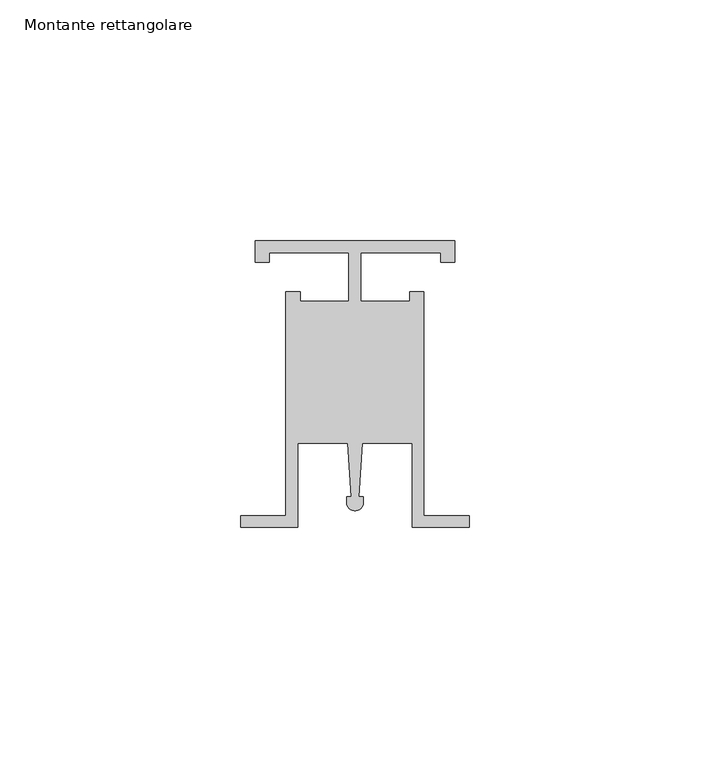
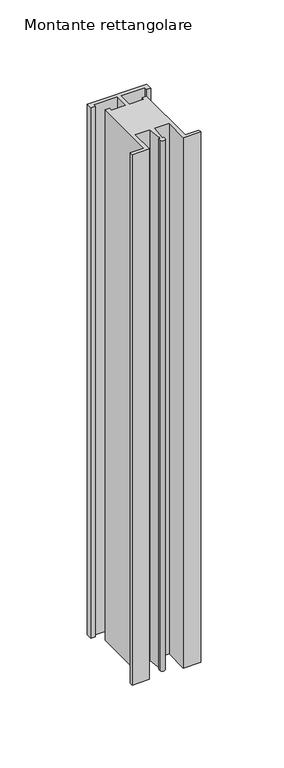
"""IFC4 building model written with IfcOpenShell, lengths in millimetres: member geometry, Montante rettangolare : Verde Profilo's Uprights."""

from ifc_helpers import new_model, si_unit, point, frame, frame_2d, origin, place, context, project, spatial, polyline, circle_curve, trimmed, segment, composite_curve, outline, extrude, source, transform, mapped, element, save


def montante_rettangolare_631e3b4a(model_context):
    return source(origin(), model_context, "Body", "SweptSolid", [
        extrude(outline(composite_curve([segment(polyline([(-20.7595941, 0.0), (20.7595941, 0.0), (20.7595941, -4.4643434), (17.7832659, -4.4643434), (17.7832659, -2.4801246), (1.24037, -2.4801246), (1.24037, -12.5992217), (11.3587923, -12.5992217), (11.3587923, -10.6150029), (14.3351204, -10.6150029), (14.3351204, -57.1992491), (23.7595941, -57.1992491), (23.7595941, -59.5229914), (11.8549958, -59.5229914), (11.8549958, -42.1200913), (1.4717512, -42.1200913), (0.7440374, -53.2310496), (1.7376604, -53.2310496), (1.7376604, -54.4070013)]), True, "CONTINUOUS"), segment(trimmed(circle_curve(frame_2d((0.0, -54.4070013)), 1.7376604), [point((1.7376604, -54.4070013))], [point((-1.7376604, -54.4070013))], False, "CARTESIAN"), True, "CONTINUOUS"), segment(polyline([(-1.7376604, -54.4070013), (-1.7376604, -53.2310496), (-0.7440374, -53.2310496), (-1.4717512, -42.1200913), (-11.8549958, -42.1200913), (-11.8549958, -59.5229914), (-23.7595941, -59.5229914), (-23.7595941, -57.1992491), (-14.3351204, -57.1992491), (-14.3351204, -10.6150029), (-11.3587923, -10.6150029), (-11.3587923, -12.5992217), (-1.24037, -12.5992217), (-1.24037, -2.4801246), (-17.7832659, -2.4801246), (-17.7832659, -4.4643434), (-20.7595941, -4.4643434), (-20.7595941, 0.0)]), True, "CONTINUOUS")], self_intersect=False)), frame((0.0, 0.0, -390.3770182), z_axis=(0.0, 0.0, 1.0), x_axis=(1.0, 0.0, 0.0)), (0.0, 0.0, 1.0), 390.3770182),
    ])


if __name__ == "__main__":
    model = new_model("IFC4")
    model_context = context("Model", 3, world=origin())
    ifc_project = project(units=[si_unit("LENGTHUNIT", "METRE", prefix="MILLI")], contexts=[model_context])
    site = spatial("IfcSite", under=ifc_project)
    building = spatial("IfcBuilding", under=site)
    placement = place(None, origin())
    montante_rettangolare_shape = montante_rettangolare_631e3b4a(model_context)
    element("IfcMember", 1, ObjectType="Montante rettangolare : Verde Profilo's Uprights", at=placement, inside=building, context=model_context, shape_type="MappedRepresentation", body=[
        mapped(montante_rettangolare_shape, transform((0.0, 0.0, 0.0), x_axis=(1.0, 0.0, 0.0), y_axis=(0.0, 1.0, 0.0), z_axis=(0.0, 0.0, 1.0))),
    ])
    save(model, "model.ifc")
